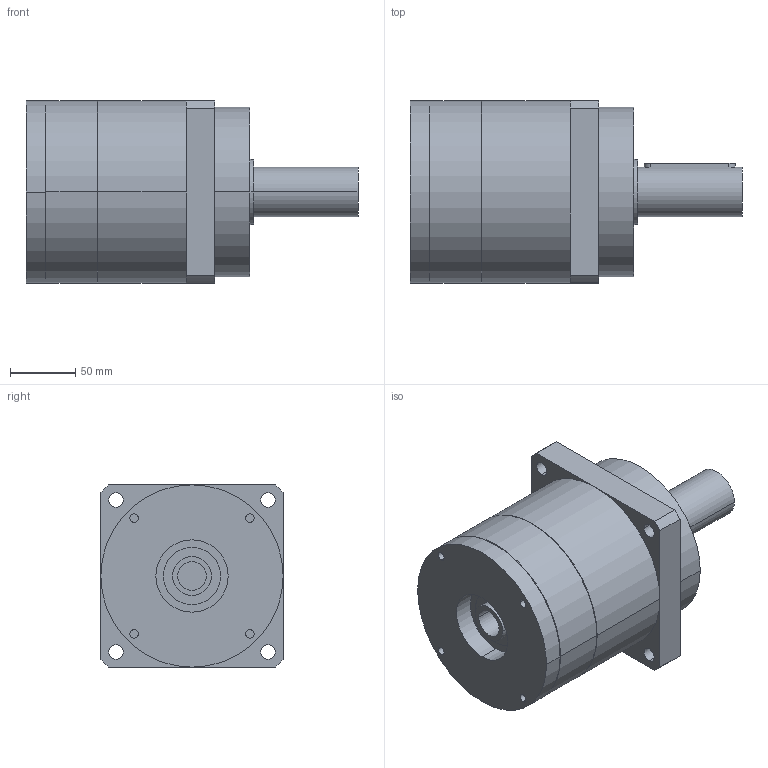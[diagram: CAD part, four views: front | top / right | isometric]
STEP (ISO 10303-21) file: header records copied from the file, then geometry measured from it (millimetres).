
FILE_DESCRIPTION(('CoCreate Modeling STEP Export'),'2;1');
FILE_NAME('GPR150_ig-3-4-5-7_38_B5_22_P01.stp','2014-08-26T15:29:10',(''),(''),'CoCreate Modeling STEP processor for AP214 (Solid Model)','CoCreate Modeling 16.00C 25-Feb-2009 (C) Parametric Technology GmbH','');
FILE_SCHEMA(('AUTOMOTIVE_DESIGN { 1 0 10303 214 1 1 1 1 }'));
Length unit declared in the file: millimetre
Products named in the file (2): GPR150_ig-3-4-5-7_38_B5_22_P01
Assembly tree (1 placements, depth 2):
  GPR150_ig-3-4-5-7_38_B5_22_P01
    GPR150_ig-3-4-5-7_38_B5_22_P01
Bounding box: 255 x 140 x 140 mm (x, y, z)
Volume: 2715992.5 mm3; surface area: 138918.6 mm2
Topology: 1 solids, 1 shells, 88 faces, 220 edges, 150 vertices
Faces by surface type: cylinder 52, plane 30, cone 6
Entity records: 2307 total; most frequent: ORIENTED_EDGE 436, CARTESIAN_POINT 422, DIRECTION 320, EDGE_CURVE 218, VERTEX_POINT 150, AXIS2_PLACEMENT_3D 120, EDGE_LOOP 114, FACE_OUTER_BOUND 88
